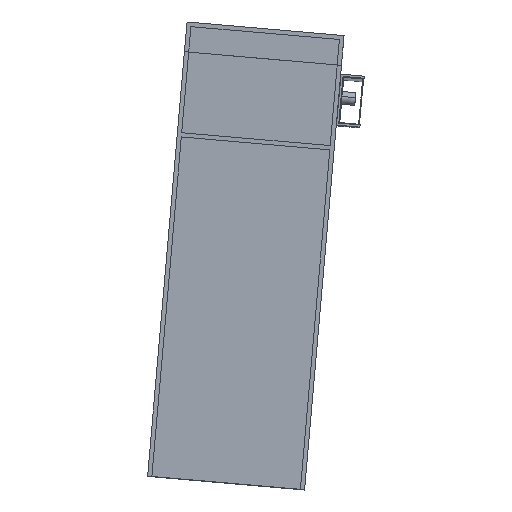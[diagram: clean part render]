
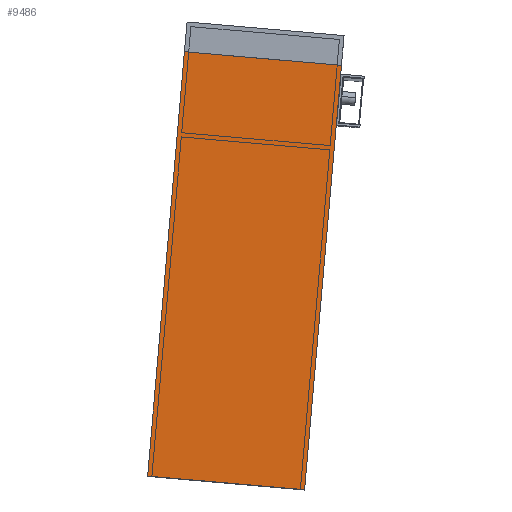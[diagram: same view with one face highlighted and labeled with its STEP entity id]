
A CAD part, top view. The second image highlights one B-rep face of the part: STEP entity #9486.
In plain terms, the highlighted planar face has unit normal (0, 0, 1) as drawn and (1, 0, 0) by its records, which use the part's own axes.
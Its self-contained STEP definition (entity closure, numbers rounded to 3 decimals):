
#7 = EDGE_CURVE ( 'NONE', #4489, #7155, #9364, .T. ) ;
#308 = EDGE_CURVE ( 'NONE', #7155, #7729, #11828, .T. ) ;
#309 = VECTOR ( 'NONE', #3831, 1000. ) ;
#354 = ORIENTED_EDGE ( 'NONE', *, *, #7, .T. ) ;
#1843 = PLANE ( 'NONE',  #3136 ) ;
#1943 = ORIENTED_EDGE ( 'NONE', *, *, #308, .T. ) ;
#2154 = VECTOR ( 'NONE', #4865, 1000. ) ;
#2799 = VECTOR ( 'NONE', #10528, 1000. ) ;
#2833 = EDGE_CURVE ( 'NONE', #4489, #9802, #14428, .T. ) ;
#3136 = AXIS2_PLACEMENT_3D ( 'NONE', #15314, #14129, #4327 ) ;
#3699 = VECTOR ( 'NONE', #13674, 1000. ) ;
#3831 = DIRECTION ( 'NONE',  ( 0., -1., 0. ) ) ;
#4327 = DIRECTION ( 'NONE',  ( 0., 0., 1. ) ) ;
#4489 = VERTEX_POINT ( 'NONE', #12443 ) ;
#4865 = DIRECTION ( 'NONE',  ( 0., 0., -1. ) ) ;
#6873 = CARTESIAN_POINT ( 'NONE',  ( 210., 0., 0. ) ) ;
#7155 = VERTEX_POINT ( 'NONE', #7464 ) ;
#7464 = CARTESIAN_POINT ( 'NONE',  ( 210., 0., 185. ) ) ;
#7729 = VERTEX_POINT ( 'NONE', #14483 ) ;
#8087 = EDGE_CURVE ( 'NONE', #9802, #7729, #8298, .T. ) ;
#8298 = LINE ( 'NONE', #13723, #3699 ) ;
#9364 = LINE ( 'NONE', #12614, #309 ) ;
#9486 = ADVANCED_FACE ( 'NONE', ( #12835 ), #1843, .F. ) ;
#9802 = VERTEX_POINT ( 'NONE', #9866 ) ;
#9866 = CARTESIAN_POINT ( 'NONE',  ( 210., 1000., -185. ) ) ;
#10528 = DIRECTION ( 'NONE',  ( 0., 0., -1. ) ) ;
#11453 = ORIENTED_EDGE ( 'NONE', *, *, #2833, .F. ) ;
#11828 = LINE ( 'NONE', #6873, #2799 ) ;
#12443 = CARTESIAN_POINT ( 'NONE',  ( 210., 1000., 185. ) ) ;
#12614 = CARTESIAN_POINT ( 'NONE',  ( 210., 1000., 185. ) ) ;
#12835 = FACE_OUTER_BOUND ( 'NONE', #14751, .T. ) ;
#13632 = CARTESIAN_POINT ( 'NONE',  ( 210., 1000., 0. ) ) ;
#13674 = DIRECTION ( 'NONE',  ( 0., -1., 0. ) ) ;
#13723 = CARTESIAN_POINT ( 'NONE',  ( 210., 1000., -185. ) ) ;
#14129 = DIRECTION ( 'NONE',  ( -1., 0., 0. ) ) ;
#14428 = LINE ( 'NONE', #13632, #2154 ) ;
#14467 = ORIENTED_EDGE ( 'NONE', *, *, #8087, .F. ) ;
#14483 = CARTESIAN_POINT ( 'NONE',  ( 210., 0., -185. ) ) ;
#14751 = EDGE_LOOP ( 'NONE', ( #1943, #14467, #11453, #354 ) ) ;
#15314 = CARTESIAN_POINT ( 'NONE',  ( 210., 1000., 0. ) ) ;
